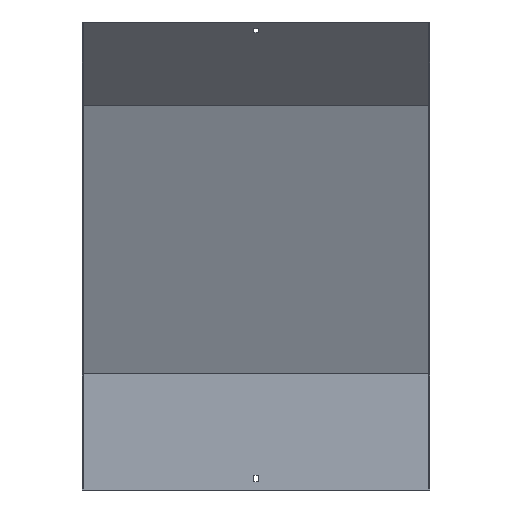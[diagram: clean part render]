
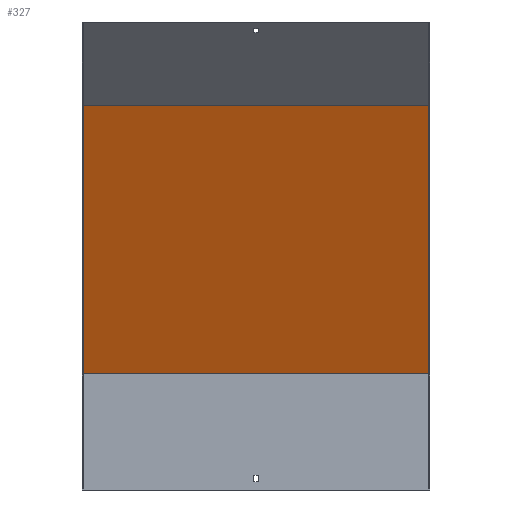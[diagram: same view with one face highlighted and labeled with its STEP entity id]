
A CAD part, front view. The second image highlights one B-rep face of the part: STEP entity #327.
In plain terms, the highlighted planar face has unit normal (0, -0.924, -0.383).
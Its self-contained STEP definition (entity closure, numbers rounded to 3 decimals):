
#1 = EDGE_CURVE ( 'NONE', #171, #474, #534, .T. ) ;
#22 = CARTESIAN_POINT ( 'NONE',  ( 250., 75.428, 31.243 ) ) ;
#43 = CARTESIAN_POINT ( 'NONE',  ( 250., -142.365, 557.042 ) ) ;
#57 = LINE ( 'NONE', #823, #617 ) ;
#63 = CARTESIAN_POINT ( 'NONE',  ( 251.5, 18.5, 168.68 ) ) ;
#64 = FACE_OUTER_BOUND ( 'NONE', #144, .T. ) ;
#76 = ORIENTED_EDGE ( 'NONE', *, *, #510, .F. ) ;
#89 = LINE ( 'NONE', #419, #275 ) ;
#116 = CARTESIAN_POINT ( 'NONE',  ( 250., 18.5, 168.68 ) ) ;
#139 = VECTOR ( 'NONE', #657, 1000. ) ;
#144 = EDGE_LOOP ( 'NONE', ( #563, #76, #209, #446 ) ) ;
#171 = VERTEX_POINT ( 'NONE', #116 ) ;
#181 = VERTEX_POINT ( 'NONE', #444 ) ;
#188 = VECTOR ( 'NONE', #832, 1000. ) ;
#209 = ORIENTED_EDGE ( 'NONE', *, *, #1, .T. ) ;
#252 = EDGE_CURVE ( 'NONE', #286, #181, #57, .T. ) ;
#275 = VECTOR ( 'NONE', #589, 1000. ) ;
#286 = VERTEX_POINT ( 'NONE', #640 ) ;
#325 = DIRECTION ( 'NONE',  ( 0., -0.924, -0.383 ) ) ;
#327 = ADVANCED_FACE ( 'NONE', ( #64 ), #391, .T. ) ;
#366 = AXIS2_PLACEMENT_3D ( 'NONE', #643, #325, #580 ) ;
#391 = PLANE ( 'NONE',  #366 ) ;
#419 = CARTESIAN_POINT ( 'NONE',  ( 251.5, -142.365, 557.042 ) ) ;
#444 = CARTESIAN_POINT ( 'NONE',  ( -250., -142.365, 557.042 ) ) ;
#446 = ORIENTED_EDGE ( 'NONE', *, *, #673, .T. ) ;
#474 = VERTEX_POINT ( 'NONE', #43 ) ;
#510 = EDGE_CURVE ( 'NONE', #171, #286, #761, .T. ) ;
#534 = LINE ( 'NONE', #22, #139 ) ;
#563 = ORIENTED_EDGE ( 'NONE', *, *, #252, .F. ) ;
#580 = DIRECTION ( 'NONE',  ( 0., 0.383, -0.924 ) ) ;
#589 = DIRECTION ( 'NONE',  ( -1., 0., 0. ) ) ;
#617 = VECTOR ( 'NONE', #634, 1000. ) ;
#634 = DIRECTION ( 'NONE',  ( 0., -0.383, 0.924 ) ) ;
#640 = CARTESIAN_POINT ( 'NONE',  ( -250., 18.5, 168.68 ) ) ;
#643 = CARTESIAN_POINT ( 'NONE',  ( 251.5, 17.092, 172.08 ) ) ;
#657 = DIRECTION ( 'NONE',  ( 0., -0.383, 0.924 ) ) ;
#673 = EDGE_CURVE ( 'NONE', #474, #181, #89, .T. ) ;
#761 = LINE ( 'NONE', #63, #188 ) ;
#823 = CARTESIAN_POINT ( 'NONE',  ( -250., 75.428, 31.243 ) ) ;
#832 = DIRECTION ( 'NONE',  ( -1., 0., 0. ) ) ;
